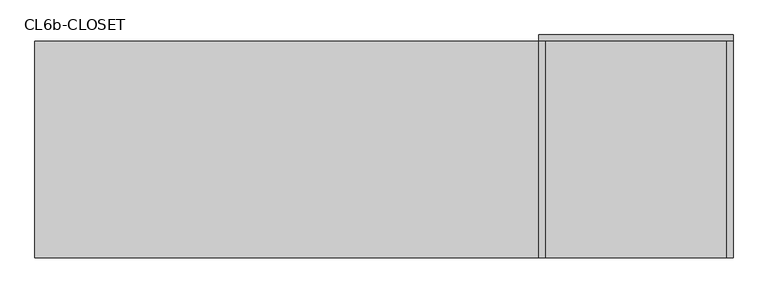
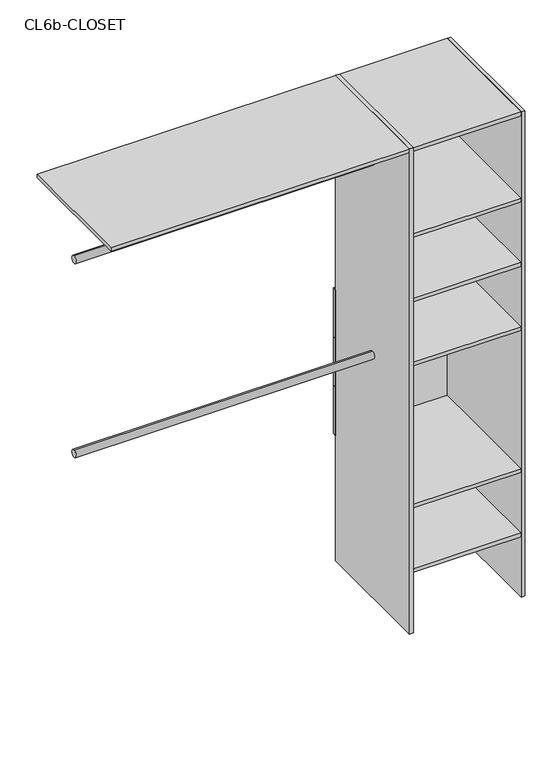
"""IFC4 building model written with IfcOpenShell, lengths in millimetres: furniture geometry, Closet 1estantes-1tubos_sin laterales : CL6b-CLOSET."""

from ifc_helpers import new_model, si_unit, point, frame, frame_2d, origin, origin_with_axes, place, context, project, spatial, polyline, circle_curve, trimmed, segment, composite_curve, outline, extrude, source, transform, mapped, element, save


def cl6b_closet_5e1df598(model_context):
    return source(origin(), model_context, "Body", "SweptSolid", [
        extrude(outline(polyline([(225.0, -100.0), (225.0, -600.0), (210.0, -600.0), (210.0, -100.0), (225.0, -100.0)])), origin_with_axes(), (0.0, 0.0, 1.0), 2000.0),
        extrude(outline(polyline([(-210.0, -100.0), (-210.0, -600.0), (-225.0, -600.0), (-225.0, -100.0), (-210.0, -100.0)])), origin_with_axes(), (0.0, 0.0, 1.0), 2000.0),
        extrude(outline(polyline([(225.0, -100.0), (-225.0, -100.0), (-225.0, -85.0), (225.0, -85.0), (225.0, -100.0)])), frame((0.0, 0.0, 915.0), z_axis=(0.0, 0.0, 1.0), x_axis=(1.0, 0.0, 0.0)), (0.0, 0.0, 1.0), 200.0),
        extrude(outline(polyline([(225.0, -100.0), (-225.0, -100.0), (-225.0, -85.0), (225.0, -85.0), (225.0, -100.0)])), frame((0.0, 0.0, 715.0), z_axis=(0.0, 0.0, 1.0), x_axis=(1.0, 0.0, 0.0)), (0.0, 0.0, 1.0), 200.0),
        extrude(outline(polyline([(225.0, -100.0), (-225.0, -100.0), (-225.0, -85.0), (225.0, -85.0), (225.0, -100.0)])), frame((0.0, 0.0, 515.0), z_axis=(0.0, 0.0, 1.0), x_axis=(1.0, 0.0, 0.0)), (0.0, 0.0, 1.0), 200.0),
        extrude(outline(polyline([(210.0, -100.0), (210.0, -600.0), (-210.0, -600.0), (-210.0, -100.0), (210.0, -100.0)])), frame((0.0, 0.0, 1100.0), z_axis=(0.0, 0.0, 1.0), x_axis=(1.0, 0.0, 0.0)), (0.0, 0.0, 1.0), 15.0),
        extrude(outline(composite_curve([segment(trimmed(circle_curve(frame_2d((-350.0, 1000.0)), 15.0), [point((-350.0, 1015.0))], [point((-350.0, 985.0))], False, "CARTESIAN"), True, "CONTINUOUS"), segment(trimmed(circle_curve(frame_2d((-350.0, 1000.0)), 15.0), [point((-350.0, 985.0))], [point((-350.0, 1015.0))], False, "CARTESIAN"), True, "CONTINUOUS")], self_intersect=False)), frame((-1390.0, 0.0, 0.0), z_axis=(1.0, 0.0, 0.0), x_axis=(0.0, 1.0, 0.0)), (0.0, 0.0, 1.0), 1165.0),
        extrude(outline(composite_curve([segment(trimmed(circle_curve(frame_2d((-350.0, 1800.0)), 15.0), [point((-350.0, 1815.0))], [point((-350.0, 1785.0))], False, "CARTESIAN"), True, "CONTINUOUS"), segment(trimmed(circle_curve(frame_2d((-350.0, 1800.0)), 15.0), [point((-350.0, 1785.0))], [point((-350.0, 1815.0))], False, "CARTESIAN"), True, "CONTINUOUS")], self_intersect=False)), frame((-1390.0, 0.0, 0.0), z_axis=(1.0, 0.0, 0.0), x_axis=(0.0, 1.0, 0.0)), (0.0, 0.0, 1.0), 1165.0),
        extrude(outline(polyline([(210.0, -100.0), (210.0, -600.0), (-210.0, -600.0), (-210.0, -100.0), (210.0, -100.0)])), frame((0.0, 0.0, 250.0), z_axis=(0.0, 0.0, 1.0), x_axis=(1.0, 0.0, 0.0)), (0.0, 0.0, 1.0), 15.0),
        extrude(outline(polyline([(210.0, -100.0), (210.0, -600.0), (-210.0, -600.0), (-210.0, -100.0), (210.0, -100.0)])), frame((0.0, 0.0, 515.0), z_axis=(0.0, 0.0, 1.0), x_axis=(1.0, 0.0, 0.0)), (0.0, 0.0, 1.0), 15.0),
        extrude(outline(polyline([(210.0, -100.0), (210.0, -600.0), (-210.0, -600.0), (-210.0, -100.0), (210.0, -100.0)])), frame((0.0, 0.0, 1365.0), z_axis=(0.0, 0.0, 1.0), x_axis=(1.0, 0.0, 0.0)), (0.0, 0.0, 1.0), 15.0),
        extrude(outline(polyline([(210.0, -100.0), (210.0, -600.0), (-210.0, -600.0), (-210.0, -100.0), (210.0, -100.0)])), frame((0.0, 0.0, 1630.0), z_axis=(0.0, 0.0, 1.0), x_axis=(1.0, 0.0, 0.0)), (0.0, 0.0, 1.0), 15.0),
        extrude(outline(polyline([(-210.0, -100.0), (-210.0, -600.0), (-1390.0, -600.0), (-1390.0, -100.0), (-210.0, -100.0)])), frame((0.0, 0.0, 1985.0), z_axis=(0.0, 0.0, 1.0), x_axis=(1.0, 0.0, 0.0)), (0.0, 0.0, 1.0), 15.0),
        extrude(outline(polyline([(210.0, -100.0), (210.0, -600.0), (-210.0, -600.0), (-210.0, -100.0), (210.0, -100.0)])), frame((0.0, 0.0, 1985.0), z_axis=(0.0, 0.0, 1.0), x_axis=(1.0, 0.0, 0.0)), (0.0, 0.0, 1.0), 15.0),
    ])


if __name__ == "__main__":
    model = new_model("IFC4")
    model_context = context("Model", 3, world=origin())
    ifc_project = project(units=[si_unit("LENGTHUNIT", "METRE", prefix="MILLI")], contexts=[model_context])
    site = spatial("IfcSite", under=ifc_project)
    building = spatial("IfcBuilding", under=site)
    placement = place(None, origin())
    cl6b_closet_shape = cl6b_closet_5e1df598(model_context)
    element("IfcFurniture", 1, ObjectType="Closet 1estantes-1tubos_sin laterales : CL6b-CLOSET", at=placement, inside=building, context=model_context, shape_type="MappedRepresentation", body=[
        mapped(cl6b_closet_shape, transform((0.0, 0.0, 0.0), x_axis=(1.0, 0.0, 0.0), y_axis=(0.0, 1.0, 0.0), z_axis=(0.0, 0.0, 1.0))),
    ])
    save(model, "model.ifc")
